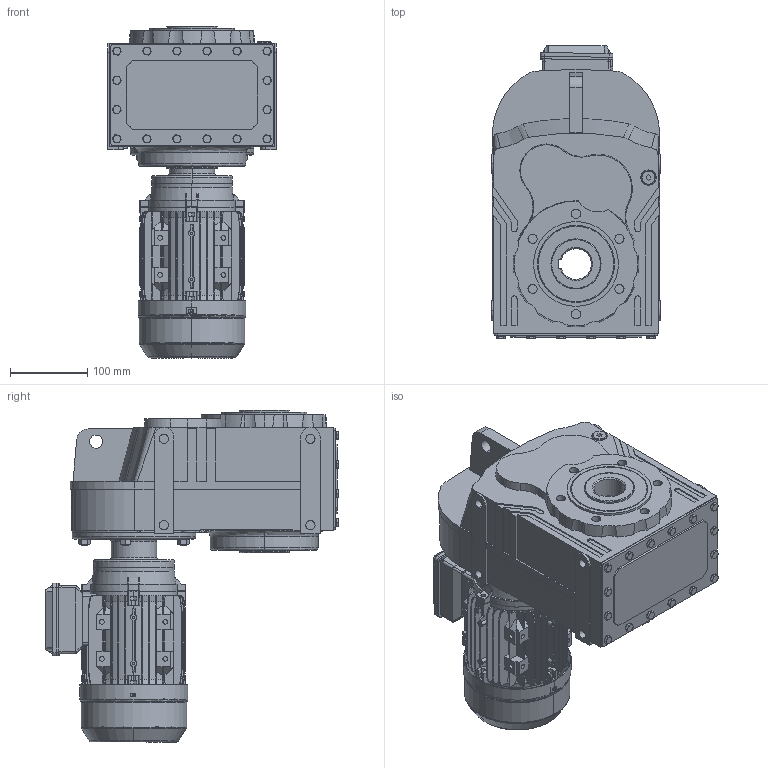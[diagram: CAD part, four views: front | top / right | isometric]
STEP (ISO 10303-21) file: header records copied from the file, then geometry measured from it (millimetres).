
FILE_DESCRIPTION (( 'STEP AP203' ), '1' );
FILE_NAME ('DV_373_0_MX71.STEP', '2018-11-20T09:56:29', ( '' ), ( '' ), 'SwSTEP 2.0', 'SolidWorks 2012', '' );
FILE_SCHEMA (( 'CONFIG_CONTROL_DESIGN' ));
Length unit declared in the file: millimetre
Products named in the file (12): MX71_B14; Lüfterhaube_MS71; DV_373_0_MX71; L黤terfl黦el_MS71; Klemmenkastenunterteil_MS71; Klemmkastenoberteil_MS71; B14-Flansch_MS71; Gehäuse_MS71L; B-Lagerschild_MS71; ML57A_Varsayìlan; 2371B14_Varsayìlan; D373_Varsayìlan
Assembly tree (11 placements, depth 3):
  DV_373_0_MX71
    D373_Varsayìlan
    2371B14_Varsayìlan
    ML57A_Varsayìlan
    MX71_B14
      Gehäuse_MS71L
      B-Lagerschild_MS71
      B14-Flansch_MS71
      Klemmenkastenunterteil_MS71
      Klemmkastenoberteil_MS71
      L黤terfl黦el_MS71
      Lüfterhaube_MS71
Bounding box: 219 x 381.31 x 430.71 mm (x, y, z)
Volume: 10149271.9 mm3; surface area: 978981 mm2
Topology: 10 solids, 14 shells, 2897 faces, 7676 edges, 4921 vertices
Faces by surface type: plane 1498, cylinder 809, cone 420, bspline 162, torus 8
Entity records: 108206 total; most frequent: CARTESIAN_POINT 37066, ORIENTED_EDGE 15340, DIRECTION 13522, EDGE_CURVE 7670, VERTEX_POINT 4921, AXIS2_PLACEMENT_3D 4740, VECTOR 4042, LINE 4042
